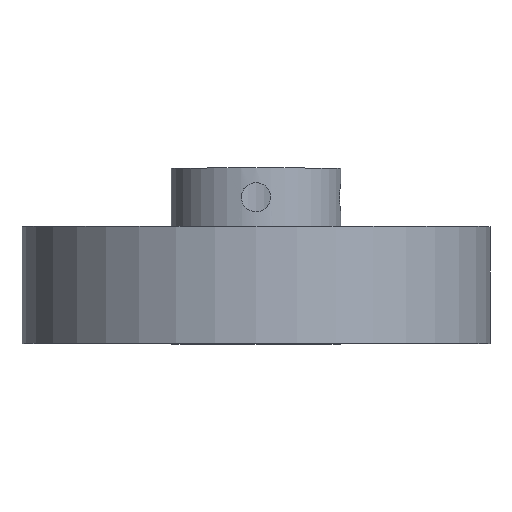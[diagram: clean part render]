
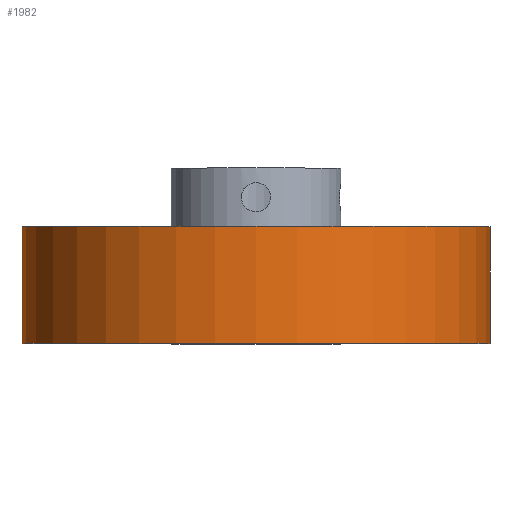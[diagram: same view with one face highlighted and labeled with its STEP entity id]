
A CAD part, top view. The second image highlights one B-rep face of the part: STEP entity #1982.
In plain terms, the highlighted cylindrical face has radius 50.8 mm (diameter 101.6 mm), a full revolution.
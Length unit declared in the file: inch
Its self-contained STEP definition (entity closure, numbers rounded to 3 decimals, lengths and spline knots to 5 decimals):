
#270=FACE_OUTER_BOUND('',#364,.T.);
#364=EDGE_LOOP('',(#1623,#1624,#1625,#1626));
#550=LINE('',#3317,#696);
#696=VECTOR('',#2771,2.);
#815=CIRCLE('',#2212,2.);
#816=CIRCLE('',#2213,2.);
#991=VERTEX_POINT('',#3314);
#992=VERTEX_POINT('',#3316);
#1262=EDGE_CURVE('',#991,#991,#815,.T.);
#1263=EDGE_CURVE('',#991,#992,#550,.T.);
#1264=EDGE_CURVE('',#992,#992,#816,.T.);
#1623=ORIENTED_EDGE('',*,*,#1262,.F.);
#1624=ORIENTED_EDGE('',*,*,#1263,.T.);
#1625=ORIENTED_EDGE('',*,*,#1264,.T.);
#1626=ORIENTED_EDGE('',*,*,#1263,.F.);
#1892=CYLINDRICAL_SURFACE('',#2211,2.);
#1982=ADVANCED_FACE('',(#270),#1892,.T.);
#2211=AXIS2_PLACEMENT_3D('',#3313,#2767,#2768);
#2212=AXIS2_PLACEMENT_3D('',#3315,#2769,#2770);
#2213=AXIS2_PLACEMENT_3D('',#3318,#2772,#2773);
#2767=DIRECTION('center_axis',(0.,1.,0.));
#2768=DIRECTION('ref_axis',(-1.,0.,0.));
#2769=DIRECTION('center_axis',(0.,1.,0.));
#2770=DIRECTION('ref_axis',(-1.,0.,0.));
#2771=DIRECTION('',(0.,-1.,0.));
#2772=DIRECTION('center_axis',(0.,1.,0.));
#2773=DIRECTION('ref_axis',(-1.,0.,0.));
#3313=CARTESIAN_POINT('Origin',(0.,0.,0.));
#3314=CARTESIAN_POINT('',(2.,1.,0.));
#3315=CARTESIAN_POINT('Origin',(0.,1.,0.));
#3316=CARTESIAN_POINT('',(2.,0.,0.));
#3317=CARTESIAN_POINT('',(2.,0.,0.));
#3318=CARTESIAN_POINT('Origin',(0.,0.,0.));
